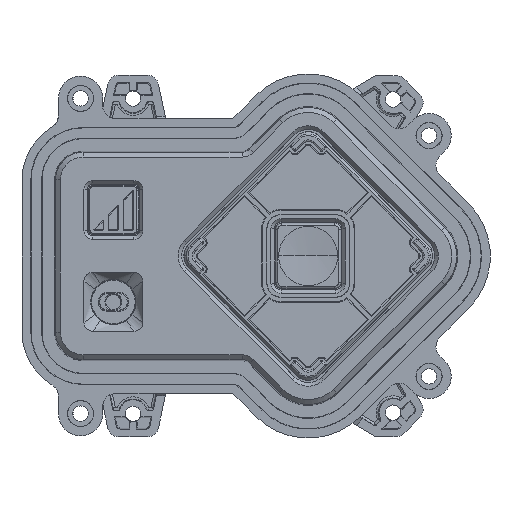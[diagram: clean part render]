
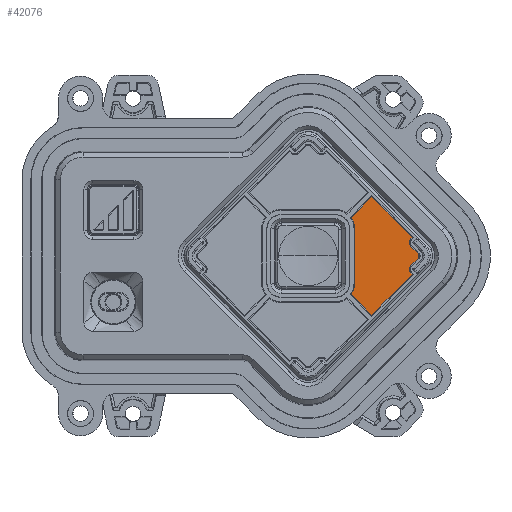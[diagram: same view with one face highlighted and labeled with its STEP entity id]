
A CAD part, top view. The second image highlights one B-rep face of the part: STEP entity #42076.
In plain terms, the highlighted planar face has unit normal (0, 0, 1).
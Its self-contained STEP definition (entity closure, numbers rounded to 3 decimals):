
#320 = VERTEX_POINT ( 'NONE', #16701 ) ;
#357 = CARTESIAN_POINT ( 'NONE',  ( 23.79, 4.243, -42. ) ) ;
#1406 = CARTESIAN_POINT ( 'NONE',  ( 10.661, 6.208, -42. ) ) ;
#1994 = AXIS2_PLACEMENT_3D ( 'NONE', #46473, #46651, #46732 ) ;
#3291 = DIRECTION ( 'NONE',  ( 0., -1., 0. ) ) ;
#4634 = CARTESIAN_POINT ( 'NONE',  ( 23.437, 2.192, -42. ) ) ;
#5531 = CARTESIAN_POINT ( 'NONE',  ( 14.513, -13.52, -42. ) ) ;
#6930 = VECTOR ( 'NONE', #73495, 1000. ) ;
#7488 = VERTEX_POINT ( 'NONE', #54022 ) ;
#8090 = CARTESIAN_POINT ( 'NONE',  ( 23.79, -4.243, -42. ) ) ;
#9658 = LINE ( 'NONE', #51430, #79694 ) ;
#10720 = AXIS2_PLACEMENT_3D ( 'NONE', #63750, #63805, #64004 ) ;
#11606 = EDGE_CURVE ( 'NONE', #62875, #14413, #46270, .T. ) ;
#12442 = ORIENTED_EDGE ( 'NONE', *, *, #23655, .T. ) ;
#12884 = EDGE_CURVE ( 'NONE', #35729, #62875, #27924, .T. ) ;
#13794 = VECTOR ( 'NONE', #43964, 1000. ) ;
#14413 = VERTEX_POINT ( 'NONE', #8090 ) ;
#15426 = CARTESIAN_POINT ( 'NONE',  ( 24.285, 3.041, -42. ) ) ;
#15608 = DIRECTION ( 'NONE',  ( 0., 0., -1. ) ) ;
#15637 = ORIENTED_EDGE ( 'NONE', *, *, #27049, .T. ) ;
#15639 = AXIS2_PLACEMENT_3D ( 'NONE', #15426, #15608, #15783 ) ;
#15645 = EDGE_CURVE ( 'NONE', #61408, #35729, #30181, .T. ) ;
#15783 = DIRECTION ( 'NONE',  ( 0.707, -0.707, 0. ) ) ;
#16701 = CARTESIAN_POINT ( 'NONE',  ( 23.437, 3.889, -42. ) ) ;
#17103 = CARTESIAN_POINT ( 'NONE',  ( 10.661, -6.208, -42. ) ) ;
#17309 = EDGE_CURVE ( 'NONE', #43848, #7488, #60711, .T. ) ;
#17946 = CARTESIAN_POINT ( 'NONE',  ( 23.437, -2.192, -42. ) ) ;
#18737 = CIRCLE ( 'NONE', #33115, 1.2 ) ;
#18886 = DIRECTION ( 'NONE',  ( -0.707, -0.707, 0. ) ) ;
#18995 = LINE ( 'NONE', #58979, #50328 ) ;
#20606 = EDGE_CURVE ( 'NONE', #57059, #43848, #43230, .T. ) ;
#21813 = ORIENTED_EDGE ( 'NONE', *, *, #15645, .T. ) ;
#22085 = EDGE_CURVE ( 'NONE', #70402, #57059, #30625, .T. ) ;
#23160 = ORIENTED_EDGE ( 'NONE', *, *, #17309, .T. ) ;
#23655 = EDGE_CURVE ( 'NONE', #67066, #320, #70670, .T. ) ;
#23764 = CARTESIAN_POINT ( 'NONE',  ( 9.815, -8.822, -42. ) ) ;
#23890 = VERTEX_POINT ( 'NONE', #26544 ) ;
#24407 = DIRECTION ( 'NONE',  ( 0.707, 0.707, 0. ) ) ;
#24782 = ORIENTED_EDGE ( 'NONE', *, *, #28655, .T. ) ;
#25069 = ORIENTED_EDGE ( 'NONE', *, *, #20606, .T. ) ;
#26162 = VECTOR ( 'NONE', #3291, 1000. ) ;
#26336 = VERTEX_POINT ( 'NONE', #45838 ) ;
#26436 = EDGE_CURVE ( 'NONE', #77903, #73839, #18737, .T. ) ;
#26544 = CARTESIAN_POINT ( 'NONE',  ( 25.104, -0.524, -42. ) ) ;
#26929 = EDGE_CURVE ( 'NONE', #73839, #23890, #54693, .T. ) ;
#27049 = EDGE_CURVE ( 'NONE', #23890, #26336, #37199, .T. ) ;
#27795 = EDGE_CURVE ( 'NONE', #26336, #67066, #9658, .T. ) ;
#27900 = EDGE_CURVE ( 'NONE', #320, #70402, #74721, .T. ) ;
#27924 = LINE ( 'NONE', #76250, #60823 ) ;
#28153 = LINE ( 'NONE', #1406, #26162 ) ;
#28267 = EDGE_CURVE ( 'NONE', #7488, #61408, #28153, .T. ) ;
#28655 = EDGE_CURVE ( 'NONE', #14413, #77903, #18995, .T. ) ;
#30181 = CIRCLE ( 'NONE', #10720, 4.463 ) ;
#30625 = LINE ( 'NONE', #43420, #13794 ) ;
#30792 = AXIS2_PLACEMENT_3D ( 'NONE', #73796, #36808, #80121 ) ;
#33115 = AXIS2_PLACEMENT_3D ( 'NONE', #50976, #51226, #51428 ) ;
#35729 = VERTEX_POINT ( 'NONE', #23764 ) ;
#36048 = AXIS2_PLACEMENT_3D ( 'NONE', #80617, #80641, #79913 ) ;
#36808 = DIRECTION ( 'NONE',  ( 0., 0., -1. ) ) ;
#37199 = CIRCLE ( 'NONE', #36048, 0.741 ) ;
#42076 = ADVANCED_FACE ( 'NONE', ( #44740 ), #42599, .F. ) ;
#42599 = PLANE ( 'NONE',  #30792 ) ;
#43230 = LINE ( 'NONE', #49108, #57654 ) ;
#43420 = CARTESIAN_POINT ( 'NONE',  ( 23.79, 4.243, -42. ) ) ;
#43848 = VERTEX_POINT ( 'NONE', #64715 ) ;
#43964 = DIRECTION ( 'NONE',  ( -0.707, 0.707, 0. ) ) ;
#44125 = ORIENTED_EDGE ( 'NONE', *, *, #26929, .T. ) ;
#44740 = FACE_OUTER_BOUND ( 'NONE', #51023, .T. ) ;
#45838 = CARTESIAN_POINT ( 'NONE',  ( 25.104, 0.524, -42. ) ) ;
#46270 = LINE ( 'NONE', #52520, #77128 ) ;
#46473 = CARTESIAN_POINT ( 'NONE',  ( 6.197, 6.208, -42. ) ) ;
#46651 = DIRECTION ( 'NONE',  ( 0., 0., -1. ) ) ;
#46732 = DIRECTION ( 'NONE',  ( -0.707, 0.707, 0. ) ) ;
#47635 = DIRECTION ( 'NONE',  ( -0.707, 0.707, 0. ) ) ;
#48097 = ORIENTED_EDGE ( 'NONE', *, *, #27795, .T. ) ;
#49108 = CARTESIAN_POINT ( 'NONE',  ( 14.513, 13.52, -42. ) ) ;
#49782 = ORIENTED_EDGE ( 'NONE', *, *, #28267, .T. ) ;
#50328 = VECTOR ( 'NONE', #58446, 1000. ) ;
#50976 = CARTESIAN_POINT ( 'NONE',  ( 24.285, -3.041, -42. ) ) ;
#51023 = EDGE_LOOP ( 'NONE', ( #62619, #44125, #15637, #48097, #12442, #54463, #68412, #25069, #23160, #49782, #21813, #65572, #71586, #24782 ) ) ;
#51226 = DIRECTION ( 'NONE',  ( 0., 0., -1. ) ) ;
#51428 = DIRECTION ( 'NONE',  ( 0.707, -0.707, 0. ) ) ;
#51430 = CARTESIAN_POINT ( 'NONE',  ( 25.104, 0.524, -42. ) ) ;
#52520 = CARTESIAN_POINT ( 'NONE',  ( 14.513, -13.52, -42. ) ) ;
#54022 = CARTESIAN_POINT ( 'NONE',  ( 10.661, 6.208, -42. ) ) ;
#54463 = ORIENTED_EDGE ( 'NONE', *, *, #27900, .T. ) ;
#54693 = LINE ( 'NONE', #74564, #6930 ) ;
#57059 = VERTEX_POINT ( 'NONE', #77605 ) ;
#57654 = VECTOR ( 'NONE', #18886, 1000. ) ;
#58446 = DIRECTION ( 'NONE',  ( -0.707, 0.707, 0. ) ) ;
#58979 = CARTESIAN_POINT ( 'NONE',  ( 23.79, -4.243, -42. ) ) ;
#60518 = CARTESIAN_POINT ( 'NONE',  ( 23.437, 3.889, -42. ) ) ;
#60711 = CIRCLE ( 'NONE', #1994, 4.463 ) ;
#60823 = VECTOR ( 'NONE', #75359, 1000. ) ;
#61408 = VERTEX_POINT ( 'NONE', #17103 ) ;
#62471 = DIRECTION ( 'NONE',  ( 0.707, 0.707, 0. ) ) ;
#62619 = ORIENTED_EDGE ( 'NONE', *, *, #26436, .T. ) ;
#62875 = VERTEX_POINT ( 'NONE', #5531 ) ;
#63273 = CARTESIAN_POINT ( 'NONE',  ( 23.437, -3.889, -42. ) ) ;
#63750 = CARTESIAN_POINT ( 'NONE',  ( 6.197, -6.208, -42. ) ) ;
#63805 = DIRECTION ( 'NONE',  ( 0., 0., -1. ) ) ;
#64004 = DIRECTION ( 'NONE',  ( -0.707, 0.707, 0. ) ) ;
#64715 = CARTESIAN_POINT ( 'NONE',  ( 9.815, 8.822, -42. ) ) ;
#65572 = ORIENTED_EDGE ( 'NONE', *, *, #12884, .T. ) ;
#67066 = VERTEX_POINT ( 'NONE', #4634 ) ;
#68412 = ORIENTED_EDGE ( 'NONE', *, *, #22085, .T. ) ;
#70402 = VERTEX_POINT ( 'NONE', #357 ) ;
#70670 = CIRCLE ( 'NONE', #15639, 1.2 ) ;
#71586 = ORIENTED_EDGE ( 'NONE', *, *, #11606, .T. ) ;
#72766 = VECTOR ( 'NONE', #62471, 1000. ) ;
#73495 = DIRECTION ( 'NONE',  ( 0.707, 0.707, 0. ) ) ;
#73796 = CARTESIAN_POINT ( 'NONE',  ( 24.285, -3.041, -42. ) ) ;
#73839 = VERTEX_POINT ( 'NONE', #17946 ) ;
#74564 = CARTESIAN_POINT ( 'NONE',  ( 23.437, -2.192, -42. ) ) ;
#74721 = LINE ( 'NONE', #60518, #72766 ) ;
#75359 = DIRECTION ( 'NONE',  ( 0.707, -0.707, 0. ) ) ;
#76250 = CARTESIAN_POINT ( 'NONE',  ( 9.815, -8.822, -42. ) ) ;
#77128 = VECTOR ( 'NONE', #24407, 1000. ) ;
#77605 = CARTESIAN_POINT ( 'NONE',  ( 14.513, 13.52, -42. ) ) ;
#77903 = VERTEX_POINT ( 'NONE', #63273 ) ;
#79694 = VECTOR ( 'NONE', #47635, 1000. ) ;
#79913 = DIRECTION ( 'NONE',  ( -0.707, 0.707, 0. ) ) ;
#80121 = DIRECTION ( 'NONE',  ( 0.707, -0.707, 0. ) ) ;
#80617 = CARTESIAN_POINT ( 'NONE',  ( 24.58, 0., -42. ) ) ;
#80641 = DIRECTION ( 'NONE',  ( 0., 0., 1. ) ) ;
